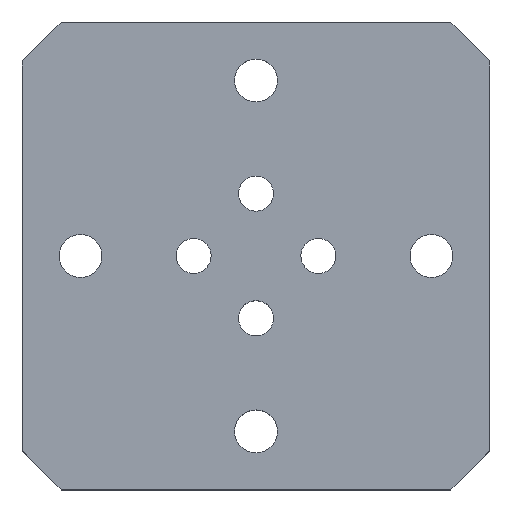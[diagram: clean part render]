
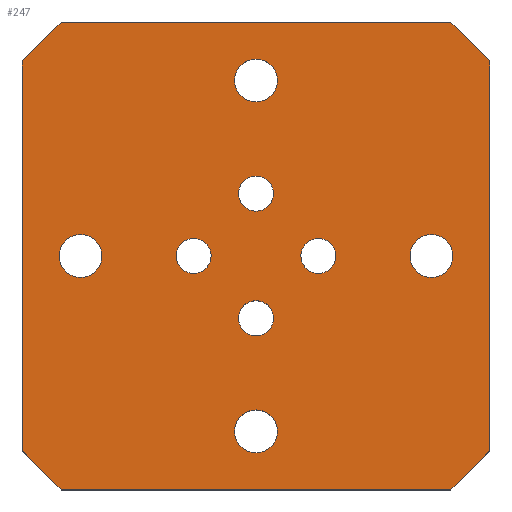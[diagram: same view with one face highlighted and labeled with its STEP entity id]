
A CAD part, top view. The second image highlights one B-rep face of the part: STEP entity #247.
In plain terms, the highlighted planar face has unit normal (0, 0, 1).
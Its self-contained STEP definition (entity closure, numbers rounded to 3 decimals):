
#35=AXIS2_PLACEMENT_3D('Plane Axis2P3D',#32,#33,#34) ;
#105=AXIS2_PLACEMENT_3D('Circle Axis2P3D',#103,#104,$) ;
#114=AXIS2_PLACEMENT_3D('Circle Axis2P3D',#112,#113,$) ;
#123=AXIS2_PLACEMENT_3D('Circle Axis2P3D',#121,#122,$) ;
#132=AXIS2_PLACEMENT_3D('Circle Axis2P3D',#130,#131,$) ;
#141=AXIS2_PLACEMENT_3D('Circle Axis2P3D',#139,#140,$) ;
#150=AXIS2_PLACEMENT_3D('Circle Axis2P3D',#148,#149,$) ;
#159=AXIS2_PLACEMENT_3D('Circle Axis2P3D',#157,#158,$) ;
#168=AXIS2_PLACEMENT_3D('Circle Axis2P3D',#166,#167,$) ;
#177=AXIS2_PLACEMENT_3D('Circle Axis2P3D',#175,#176,$) ;
#186=AXIS2_PLACEMENT_3D('Circle Axis2P3D',#184,#185,$) ;
#195=AXIS2_PLACEMENT_3D('Circle Axis2P3D',#193,#194,$) ;
#204=AXIS2_PLACEMENT_3D('Circle Axis2P3D',#202,#203,$) ;
#213=AXIS2_PLACEMENT_3D('Circle Axis2P3D',#211,#212,$) ;
#222=AXIS2_PLACEMENT_3D('Circle Axis2P3D',#220,#221,$) ;
#231=AXIS2_PLACEMENT_3D('Circle Axis2P3D',#229,#230,$) ;
#240=AXIS2_PLACEMENT_3D('Circle Axis2P3D',#238,#239,$) ;
#32=CARTESIAN_POINT('Axis2P3D Location',(0.,0.,10.)) ;
#37=CARTESIAN_POINT('Line Origine',(30.,-60.,10.)) ;
#41=CARTESIAN_POINT('Vertex',(5.,-60.,10.)) ;
#43=CARTESIAN_POINT('Vertex',(55.,-60.,10.)) ;
#46=CARTESIAN_POINT('Line Origine',(57.5,-57.5,10.)) ;
#50=CARTESIAN_POINT('Vertex',(60.,-55.,10.)) ;
#53=CARTESIAN_POINT('Line Origine',(60.,-30.,10.)) ;
#57=CARTESIAN_POINT('Vertex',(60.,-5.,10.)) ;
#60=CARTESIAN_POINT('Line Origine',(57.5,-2.5,10.)) ;
#64=CARTESIAN_POINT('Vertex',(55.,0.,10.)) ;
#67=CARTESIAN_POINT('Line Origine',(30.,0.,10.)) ;
#71=CARTESIAN_POINT('Vertex',(5.,0.,10.)) ;
#74=CARTESIAN_POINT('Line Origine',(2.5,-2.5,10.)) ;
#78=CARTESIAN_POINT('Vertex',(0.,-5.,10.)) ;
#81=CARTESIAN_POINT('Line Origine',(0.,-30.,10.)) ;
#85=CARTESIAN_POINT('Vertex',(0.,-55.,10.)) ;
#88=CARTESIAN_POINT('Line Origine',(2.5,-57.5,10.)) ;
#103=CARTESIAN_POINT('Axis2P3D Location',(30.,-7.5,10.)) ;
#107=CARTESIAN_POINT('Vertex',(32.75,-7.5,10.)) ;
#109=CARTESIAN_POINT('Vertex',(27.25,-7.5,10.)) ;
#112=CARTESIAN_POINT('Axis2P3D Location',(30.,-7.5,10.)) ;
#121=CARTESIAN_POINT('Axis2P3D Location',(30.,-52.5,10.)) ;
#125=CARTESIAN_POINT('Vertex',(32.75,-52.5,10.)) ;
#127=CARTESIAN_POINT('Vertex',(27.25,-52.5,10.)) ;
#130=CARTESIAN_POINT('Axis2P3D Location',(30.,-52.5,10.)) ;
#139=CARTESIAN_POINT('Axis2P3D Location',(7.5,-30.,10.)) ;
#143=CARTESIAN_POINT('Vertex',(10.25,-30.,10.)) ;
#145=CARTESIAN_POINT('Vertex',(4.75,-30.,10.)) ;
#148=CARTESIAN_POINT('Axis2P3D Location',(7.5,-30.,10.)) ;
#157=CARTESIAN_POINT('Axis2P3D Location',(52.5,-30.,10.)) ;
#161=CARTESIAN_POINT('Vertex',(55.25,-30.,10.)) ;
#163=CARTESIAN_POINT('Vertex',(49.75,-30.,10.)) ;
#166=CARTESIAN_POINT('Axis2P3D Location',(52.5,-30.,10.)) ;
#175=CARTESIAN_POINT('Axis2P3D Location',(30.,-38.,10.)) ;
#179=CARTESIAN_POINT('Vertex',(27.75,-38.,10.)) ;
#181=CARTESIAN_POINT('Vertex',(32.25,-38.,10.)) ;
#184=CARTESIAN_POINT('Axis2P3D Location',(30.,-38.,10.)) ;
#193=CARTESIAN_POINT('Axis2P3D Location',(30.,-22.,10.)) ;
#197=CARTESIAN_POINT('Vertex',(27.75,-22.,10.)) ;
#199=CARTESIAN_POINT('Vertex',(32.25,-22.,10.)) ;
#202=CARTESIAN_POINT('Axis2P3D Location',(30.,-22.,10.)) ;
#211=CARTESIAN_POINT('Axis2P3D Location',(22.,-30.,10.)) ;
#215=CARTESIAN_POINT('Vertex',(19.75,-30.,10.)) ;
#217=CARTESIAN_POINT('Vertex',(24.25,-30.,10.)) ;
#220=CARTESIAN_POINT('Axis2P3D Location',(22.,-30.,10.)) ;
#229=CARTESIAN_POINT('Axis2P3D Location',(38.,-30.,10.)) ;
#233=CARTESIAN_POINT('Vertex',(35.75,-30.,10.)) ;
#235=CARTESIAN_POINT('Vertex',(40.25,-30.,10.)) ;
#238=CARTESIAN_POINT('Axis2P3D Location',(38.,-30.,10.)) ;
#33=DIRECTION('Axis2P3D Direction',(0.,0.,1.)) ;
#34=DIRECTION('Axis2P3D XDirection',(1.,0.,0.)) ;
#38=DIRECTION('Vector Direction',(-1.,0.,0.)) ;
#47=DIRECTION('Vector Direction',(-0.707,-0.707,0.)) ;
#54=DIRECTION('Vector Direction',(0.,1.,0.)) ;
#61=DIRECTION('Vector Direction',(0.707,-0.707,0.)) ;
#68=DIRECTION('Vector Direction',(1.,0.,0.)) ;
#75=DIRECTION('Vector Direction',(0.707,0.707,0.)) ;
#82=DIRECTION('Vector Direction',(0.,-1.,0.)) ;
#89=DIRECTION('Vector Direction',(0.707,-0.707,0.)) ;
#104=DIRECTION('Axis2P3D Direction',(0.,0.,1.)) ;
#113=DIRECTION('Axis2P3D Direction',(0.,0.,1.)) ;
#122=DIRECTION('Axis2P3D Direction',(0.,0.,1.)) ;
#131=DIRECTION('Axis2P3D Direction',(0.,0.,1.)) ;
#140=DIRECTION('Axis2P3D Direction',(0.,0.,1.)) ;
#149=DIRECTION('Axis2P3D Direction',(0.,0.,1.)) ;
#158=DIRECTION('Axis2P3D Direction',(0.,0.,1.)) ;
#167=DIRECTION('Axis2P3D Direction',(0.,0.,1.)) ;
#176=DIRECTION('Axis2P3D Direction',(0.,0.,1.)) ;
#185=DIRECTION('Axis2P3D Direction',(0.,0.,1.)) ;
#194=DIRECTION('Axis2P3D Direction',(0.,0.,1.)) ;
#203=DIRECTION('Axis2P3D Direction',(0.,0.,1.)) ;
#212=DIRECTION('Axis2P3D Direction',(0.,0.,1.)) ;
#221=DIRECTION('Axis2P3D Direction',(0.,0.,1.)) ;
#230=DIRECTION('Axis2P3D Direction',(0.,0.,1.)) ;
#239=DIRECTION('Axis2P3D Direction',(0.,0.,1.)) ;
#39=VECTOR('Line Direction',#38,1.) ;
#48=VECTOR('Line Direction',#47,1.) ;
#55=VECTOR('Line Direction',#54,1.) ;
#62=VECTOR('Line Direction',#61,1.) ;
#69=VECTOR('Line Direction',#68,1.) ;
#76=VECTOR('Line Direction',#75,1.) ;
#83=VECTOR('Line Direction',#82,1.) ;
#90=VECTOR('Line Direction',#89,1.) ;
#94=ORIENTED_EDGE('',*,*,#45,.T.) ;
#95=ORIENTED_EDGE('',*,*,#52,.F.) ;
#96=ORIENTED_EDGE('',*,*,#59,.T.) ;
#97=ORIENTED_EDGE('',*,*,#66,.F.) ;
#98=ORIENTED_EDGE('',*,*,#73,.T.) ;
#99=ORIENTED_EDGE('',*,*,#80,.F.) ;
#100=ORIENTED_EDGE('',*,*,#87,.T.) ;
#101=ORIENTED_EDGE('',*,*,#92,.F.) ;
#118=ORIENTED_EDGE('',*,*,#111,.F.) ;
#119=ORIENTED_EDGE('',*,*,#116,.F.) ;
#136=ORIENTED_EDGE('',*,*,#129,.F.) ;
#137=ORIENTED_EDGE('',*,*,#134,.F.) ;
#154=ORIENTED_EDGE('',*,*,#147,.F.) ;
#155=ORIENTED_EDGE('',*,*,#152,.F.) ;
#172=ORIENTED_EDGE('',*,*,#165,.F.) ;
#173=ORIENTED_EDGE('',*,*,#170,.F.) ;
#190=ORIENTED_EDGE('',*,*,#183,.F.) ;
#191=ORIENTED_EDGE('',*,*,#188,.F.) ;
#208=ORIENTED_EDGE('',*,*,#201,.F.) ;
#209=ORIENTED_EDGE('',*,*,#206,.F.) ;
#226=ORIENTED_EDGE('',*,*,#219,.F.) ;
#227=ORIENTED_EDGE('',*,*,#224,.F.) ;
#244=ORIENTED_EDGE('',*,*,#237,.F.) ;
#245=ORIENTED_EDGE('',*,*,#242,.F.) ;
#120=FACE_BOUND('',#117,.T.) ;
#138=FACE_BOUND('',#135,.T.) ;
#156=FACE_BOUND('',#153,.T.) ;
#174=FACE_BOUND('',#171,.T.) ;
#192=FACE_BOUND('',#189,.T.) ;
#210=FACE_BOUND('',#207,.T.) ;
#228=FACE_BOUND('',#225,.T.) ;
#246=FACE_BOUND('',#243,.T.) ;
#247=ADVANCED_FACE('\X2\96F64EF651E04F554F53\X0\',(#102,#120,#138,#156,#174,#192,#210,#228,#246),#36,.T.) ;
#106=CIRCLE('generated circle',#105,2.75) ;
#115=CIRCLE('generated circle',#114,2.75) ;
#124=CIRCLE('generated circle',#123,2.75) ;
#133=CIRCLE('generated circle',#132,2.75) ;
#142=CIRCLE('generated circle',#141,2.75) ;
#151=CIRCLE('generated circle',#150,2.75) ;
#160=CIRCLE('generated circle',#159,2.75) ;
#169=CIRCLE('generated circle',#168,2.75) ;
#178=CIRCLE('generated circle',#177,2.25) ;
#187=CIRCLE('generated circle',#186,2.25) ;
#196=CIRCLE('generated circle',#195,2.25) ;
#205=CIRCLE('generated circle',#204,2.25) ;
#214=CIRCLE('generated circle',#213,2.25) ;
#223=CIRCLE('generated circle',#222,2.25) ;
#232=CIRCLE('generated circle',#231,2.25) ;
#241=CIRCLE('generated circle',#240,2.25) ;
#45=EDGE_CURVE('',#42,#44,#40,.F.) ;
#52=EDGE_CURVE('',#51,#44,#49,.T.) ;
#59=EDGE_CURVE('',#51,#58,#56,.T.) ;
#66=EDGE_CURVE('',#65,#58,#63,.T.) ;
#73=EDGE_CURVE('',#65,#72,#70,.F.) ;
#80=EDGE_CURVE('',#79,#72,#77,.T.) ;
#87=EDGE_CURVE('',#79,#86,#84,.T.) ;
#92=EDGE_CURVE('',#42,#86,#91,.F.) ;
#111=EDGE_CURVE('',#108,#110,#106,.T.) ;
#116=EDGE_CURVE('',#110,#108,#115,.T.) ;
#129=EDGE_CURVE('',#126,#128,#124,.T.) ;
#134=EDGE_CURVE('',#128,#126,#133,.T.) ;
#147=EDGE_CURVE('',#144,#146,#142,.T.) ;
#152=EDGE_CURVE('',#146,#144,#151,.T.) ;
#165=EDGE_CURVE('',#162,#164,#160,.T.) ;
#170=EDGE_CURVE('',#164,#162,#169,.T.) ;
#183=EDGE_CURVE('',#180,#182,#178,.T.) ;
#188=EDGE_CURVE('',#182,#180,#187,.T.) ;
#201=EDGE_CURVE('',#198,#200,#196,.T.) ;
#206=EDGE_CURVE('',#200,#198,#205,.T.) ;
#219=EDGE_CURVE('',#216,#218,#214,.T.) ;
#224=EDGE_CURVE('',#218,#216,#223,.T.) ;
#237=EDGE_CURVE('',#234,#236,#232,.T.) ;
#242=EDGE_CURVE('',#236,#234,#241,.T.) ;
#93=EDGE_LOOP('',(#94,#95,#96,#97,#98,#99,#100,#101)) ;
#117=EDGE_LOOP('',(#118,#119)) ;
#135=EDGE_LOOP('',(#136,#137)) ;
#153=EDGE_LOOP('',(#154,#155)) ;
#171=EDGE_LOOP('',(#172,#173)) ;
#189=EDGE_LOOP('',(#190,#191)) ;
#207=EDGE_LOOP('',(#208,#209)) ;
#225=EDGE_LOOP('',(#226,#227)) ;
#243=EDGE_LOOP('',(#244,#245)) ;
#102=FACE_OUTER_BOUND('',#93,.T.) ;
#40=LINE('Line',#37,#39) ;
#49=LINE('Line',#46,#48) ;
#56=LINE('Line',#53,#55) ;
#63=LINE('Line',#60,#62) ;
#70=LINE('Line',#67,#69) ;
#77=LINE('Line',#74,#76) ;
#84=LINE('Line',#81,#83) ;
#91=LINE('Line',#88,#90) ;
#36=PLANE('',#35) ;
#42=VERTEX_POINT('',#41) ;
#44=VERTEX_POINT('',#43) ;
#51=VERTEX_POINT('',#50) ;
#58=VERTEX_POINT('',#57) ;
#65=VERTEX_POINT('',#64) ;
#72=VERTEX_POINT('',#71) ;
#79=VERTEX_POINT('',#78) ;
#86=VERTEX_POINT('',#85) ;
#108=VERTEX_POINT('',#107) ;
#110=VERTEX_POINT('',#109) ;
#126=VERTEX_POINT('',#125) ;
#128=VERTEX_POINT('',#127) ;
#144=VERTEX_POINT('',#143) ;
#146=VERTEX_POINT('',#145) ;
#162=VERTEX_POINT('',#161) ;
#164=VERTEX_POINT('',#163) ;
#180=VERTEX_POINT('',#179) ;
#182=VERTEX_POINT('',#181) ;
#198=VERTEX_POINT('',#197) ;
#200=VERTEX_POINT('',#199) ;
#216=VERTEX_POINT('',#215) ;
#218=VERTEX_POINT('',#217) ;
#234=VERTEX_POINT('',#233) ;
#236=VERTEX_POINT('',#235) ;
